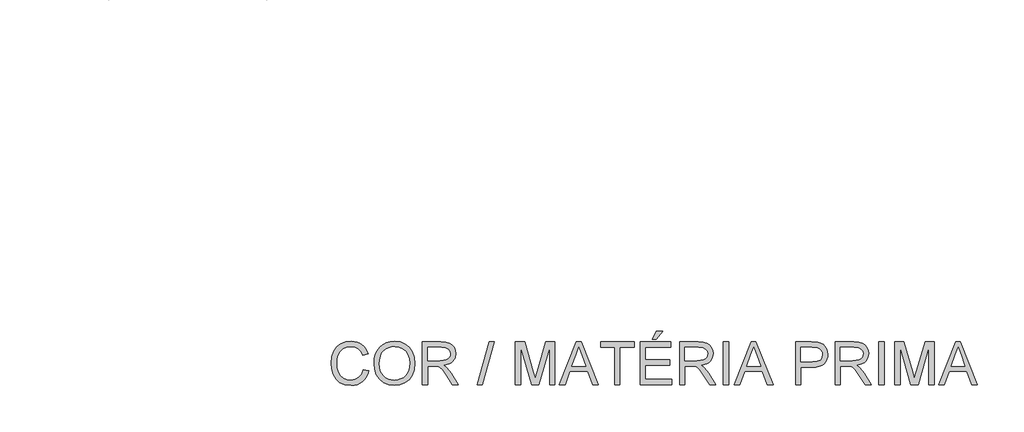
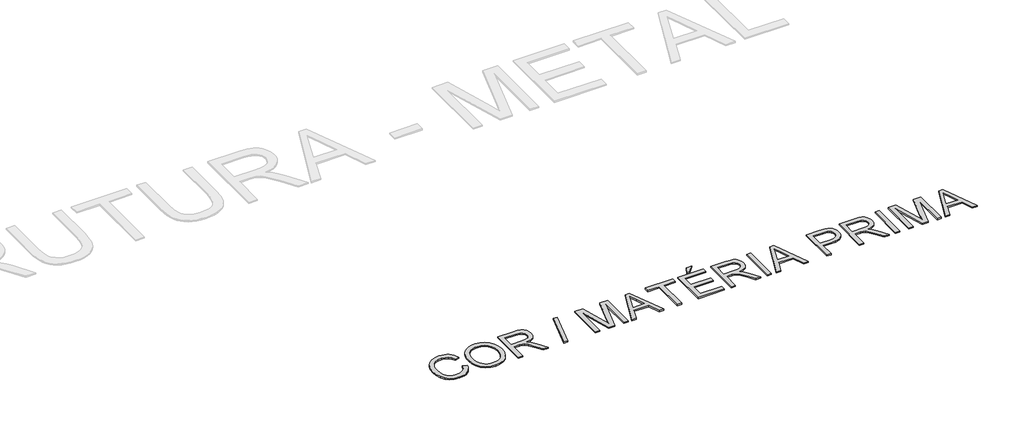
# One storey, part 29 of 35: 1 proxy.
"""IFC4 building model written with IfcOpenShell, lengths in millimetres."""

from ifc_helpers import new_model, si_unit, origin, origin_with_axes, place, context, project, spatial, polyline, outline, extrude, element, save

model = new_model("IFC4")

# Units and contexts
model_context = context("Model", 3, world=origin())
ifc_project = project(units=[si_unit("LENGTHUNIT", "METRE", prefix="MILLI")], contexts=[model_context])

# Site, building, storey
site = spatial("IfcSite", under=ifc_project)
building = spatial("IfcBuilding", under=site)
storey = spatial("IfcBuildingStorey", under=building, Name="Marelli - Linha YOU - Planta Baixa", Elevation=0.0)

# Proxy
placement = place(None, origin())
element("IfcBuildingElementProxy", 1, Name="300mm Arial", ObjectType="300mm Arial", at=placement, inside=storey, context=model_context, shape_type="SweptSolid", body=[
    extrude(outline(polyline([(6304.1029253, -16173.4390831), (6341.7740416, -16183.1511677), (6334.3198327, -16206.5783531), (6324.3916173, -16227.0486868), (6311.9893956, -16244.5621691), (6297.1131674, -16259.1187997), (6280.0986251, -16270.5622291), (6261.2814611, -16278.7361071), (6240.6616752, -16283.640434), (6218.2392676, -16285.2752096), (6174.5440836, -16280.3271968), (6139.8436145, -16265.4831583), (6113.2457462, -16241.2581289), (6093.8583651, -16208.1671434), (6082.0217619, -16169.2636224), (6078.0762275, -16127.6009865), (6082.5367967, -16083.6574822), (6095.9185042, -16045.7104543), (6117.5223744, -16014.9647166), (6146.6494314, -15992.6250824), (6181.1935507, -15979.0226457), (6219.048608, -15974.4885001), (6260.352559, -15980.3562179), (6278.3212952, -15987.6908652), (6294.5012052, -15997.9593714), (6308.6255746, -16010.8904235), (6320.4276888, -16026.2127086), (6337.0651521, -16064.0309777), (6299.3940358, -16073.0072984), (6286.3342249, -16045.5357104), (6268.4919482, -16026.6909552), (6245.6464763, -16015.7924511), (6217.57708, -16012.1596164), (6185.2218586, -16016.1879242), (6158.6423844, -16028.2728478), (6138.473254, -16047.1451941), (6125.3490638, -16071.5357704), (6118.1477738, -16099.1085259), (6115.7473438, -16127.5274101), (6118.5892322, -16162.3290468), (6127.1148974, -16192.421794), (6141.6462362, -16216.6560205), (6162.5051454, -16233.8820949), (6187.511924, -16244.1735937), (6214.4868713, -16247.6040933), (6245.9315848, -16242.931992), (6272.1339799, -16228.9156879), (6291.9168342, -16205.7023341), (6304.1029253, -16173.4390831)])), origin_with_axes(), (0.0, 0.0, 1.0), 10.0),
    extrude(outline(polyline([(6379.4451579, -16133.8549804), (6381.9559525, -16098.5061192), (6389.4883364, -16067.213157), (6402.0423095, -16039.9760937), (6419.6178718, -16016.7949295), (6441.1619611, -15998.2858666), (6465.6215153, -15985.0651074), (6492.9965342, -15977.1326519), (6523.287018, -15974.4885001), (6562.8159384, -15979.454907), (6598.2613686, -15994.3541278), (6627.6919283, -16018.1376988), (6649.1762368, -16049.7571563), (6662.309624, -16087.68579), (6666.6874197, -16130.3968896), (6662.0796978, -16173.6782064), (6648.2565318, -16212.140269), (6625.981277, -16243.8149088), (6596.0172885, -16266.733957), (6560.8753609, -16280.6398965), (6523.0662888, -16285.2752096), (6482.9303632, -16280.1524528), (6447.2825978, -16264.7841825), (6417.9256146, -16240.5591531), (6396.6620353, -16208.8661192), (6383.7493773, -16172.3998164), (6379.4451579, -16133.8549804)]), holes=[polyline([(6417.1162742, -16134.2228624), (6418.9993702, -16159.1974513), (6424.6486581, -16181.3669401), (6434.0641379, -16200.7313286), (6447.2458096, -16217.2906169), (6463.2693698, -16230.5527628), (6481.2105148, -16240.0257242), (6501.0692448, -16245.709501), (6522.8455596, -16247.6040933), (6544.994355, -16245.6911069), (6565.0876097, -16239.9521478), (6583.1253238, -16230.3872159), (6599.1074972, -16216.9963113), (6612.1925999, -16200.0875351), (6621.5391019, -16179.9689885), (6627.1470031, -16156.6406715), (6629.0163034, -16130.102584), (6625.8157301, -16096.7540812), (6616.21401, -16067.9305269), (6600.4594636, -16044.358488), (6578.8004111, -16026.7645316), (6552.6715924, -16015.8108452), (6523.5077472, -16012.1596164), (6502.4878897, -16013.9185522), (6482.9855455, -16019.1953595), (6465.0007144, -16027.9900385), (6448.5333966, -16040.302589), (6434.7884056, -16056.7262208), (6424.9705548, -16077.8541437), (6419.0798444, -16103.6863575), (6417.1162742, -16134.2228624)])]), origin_with_axes(), (0.0, 0.0, 1.0), 10.0),
    extrude(outline(polyline([(6718.4852047, -16280.5663201), (6718.4852047, -15979.1973896), (6848.347549, -15979.1973896), (6883.2503533, -15981.2299376), (6908.643408, -15987.3275817), (6927.2030546, -15998.5847708), (6941.6056347, -16016.0959537), (6950.8486699, -16037.8101885), (6953.9296816, -16061.6765329), (6948.8253189, -16091.3646099), (6933.5122308, -16115.9759154), (6921.9124517, -16126.0052983), (6907.5305649, -16134.0205273), (6870.4204687, -16144.0085235), (6891.8312008, -16160.1217548), (6922.3654064, -16198.8965171), (6972.6180869, -16280.5663201), (6928.8401295, -16280.5663201), (6889.6239088, -16218.0999573), (6861.2969952, -16176.750021), (6841.3945793, -16157.2154871), (6823.4787261, -16150.0417882), (6801.6265356, -16148.717413), (6756.156321, -16148.717413), (6756.156321, -16280.5663201), (6718.4852047, -16280.5663201)]), holes=[polyline([(6756.156321, -16111.0462967), (6840.4748743, -16111.0462967), (6864.6907066, -16109.7127245), (6883.4802795, -16105.7120078), (6897.6253422, -16098.7774322), (6907.907644, -16088.6422832), (6914.170835, -16076.3826157), (6916.2585653, -16063.0744845), (6912.2762427, -16044.6987789), (6900.3292749, -16029.8915286), (6879.7738684, -16020.1242616), (6849.9662297, -16016.8685059), (6756.156321, -16016.8685059), (6756.156321, -16111.0462967)])]), origin_with_axes(), (0.0, 0.0, 1.0), 10.0),
    extrude(outline(polyline([(7104.6141468, -16280.5663201), (7189.3741585, -15979.1973896), (7223.3664548, -15979.1973896), (7138.6064432, -16280.5663201), (7104.6141468, -16280.5663201)])), origin_with_axes(), (0.0, 0.0, 1.0), 10.0),
    extrude(outline(polyline([(7373.0208505, -16280.5663201), (7373.0208505, -15979.1973896), (7437.841658, -15979.1973896), (7499.4986804, -16191.6124536), (7511.9330919, -16235.9790223), (7525.3975729, -16187.9336337), (7586.0245257, -15979.1973896), (7650.8453332, -15979.1973896), (7650.8453332, -16280.5663201), (7613.1742169, -16280.5663201), (7613.1742169, -16016.8685059), (7537.4641023, -16280.5663201), (7486.4020814, -16280.5663201), (7410.6919668, -16016.8685059), (7410.6919668, -16280.5663201), (7373.0208505, -16280.5663201)])), origin_with_axes(), (0.0, 0.0, 1.0), 10.0),
    extrude(outline(polyline([(7681.6738444, -16280.5663201), (7801.9712569, -15979.1973896), (7834.0505668, -15979.1973896), (7954.3479793, -16280.5663201), (7914.5431474, -16280.5663201), (7880.0358162, -16186.3885293), (7755.9124311, -16186.3885293), (7721.4786763, -16280.5663201), (7681.6738444, -16280.5663201)]), holes=[polyline([(7769.7447941, -16148.717413), (7866.2770296, -16148.717413), (7839.1273384, -16074.6259792), (7818.0109119, -16016.8685059), (7799.2489301, -16068.1512561), (7769.7447941, -16148.717413)])]), origin_with_axes(), (0.0, 0.0, 1.0), 10.0),
    extrude(outline(polyline([(8069.9365021, -16280.5663201), (8069.9365021, -16016.8685059), (7971.0498218, -16016.8685059), (7971.0498218, -15979.1973896), (8206.4942988, -15979.1973896), (8206.4942988, -16016.8685059), (8107.6076185, -16016.8685059), (8107.6076185, -16280.5663201), (8069.9365021, -16280.5663201)])), origin_with_axes(), (0.0, 0.0, 1.0), 10.0),
    extrude(outline(polyline([(8248.8743046, -16280.5663201), (8248.8743046, -15979.1973896), (8465.4832234, -15979.1973896), (8465.4832234, -16016.8685059), (8286.5454209, -16016.8685059), (8286.5454209, -16106.3374072), (8456.0654443, -16106.3374072), (8456.0654443, -16144.0085235), (8286.5454209, -16144.0085235), (8286.5454209, -16242.8952038), (8470.1921129, -16242.8952038), (8470.1921129, -16280.5663201), (8248.8743046, -16280.5663201)])), origin_with_axes(), (0.0, 0.0, 1.0), 10.0),
    extrude(outline(polyline([(8333.6343163, -15960.3618315), (8361.8876535, -15903.855157), (8408.9765489, -15903.855157), (8361.8876535, -15960.3618315), (8333.6343163, -15960.3618315)])), origin_with_axes(), (0.0, 0.0, 1.0), 10.0),
    extrude(outline(polyline([(8526.6987874, -16280.5663201), (8526.6987874, -15979.1973896), (8656.5611317, -15979.1973896), (8691.463936, -15981.2299376), (8716.8569907, -15987.3275817), (8735.4166373, -15998.5847708), (8749.8192174, -16016.0959537), (8759.0622526, -16037.8101885), (8762.1432643, -16061.6765329), (8757.0389016, -16091.3646099), (8741.7258135, -16115.9759154), (8730.1260344, -16126.0052983), (8715.7441476, -16134.0205273), (8678.6340514, -16144.0085235), (8700.0447835, -16160.1217548), (8730.5789891, -16198.8965171), (8780.8316696, -16280.5663201), (8737.0537122, -16280.5663201), (8697.8374915, -16218.0999573), (8669.5105779, -16176.750021), (8649.6081619, -16157.2154871), (8631.6923088, -16150.0417882), (8609.8401183, -16148.717413), (8564.3699037, -16148.717413), (8564.3699037, -16280.5663201), (8526.6987874, -16280.5663201)]), holes=[polyline([(8564.3699037, -16111.0462967), (8648.688457, -16111.0462967), (8672.9042893, -16109.7127245), (8691.6938622, -16105.7120078), (8705.8389249, -16098.7774322), (8716.1212267, -16088.6422832), (8722.3844176, -16076.3826157), (8724.472148, -16063.0744845), (8720.4898254, -16044.6987789), (8708.5428576, -16029.8915286), (8687.9874511, -16020.1242616), (8658.1798124, -16016.8685059), (8564.3699037, -16016.8685059), (8564.3699037, -16111.0462967)])]), origin_with_axes(), (0.0, 0.0, 1.0), 10.0),
    extrude(outline(polyline([(8832.7766073, -16280.5663201), (8832.7766073, -15979.1973896), (8870.4477237, -15979.1973896), (8870.4477237, -16280.5663201), (8832.7766073, -16280.5663201)])), origin_with_axes(), (0.0, 0.0, 1.0), 10.0),
    extrude(outline(polyline([(8910.6940139, -16280.5663201), (9030.9914263, -15979.1973896), (9063.0707363, -15979.1973896), (9183.3681488, -16280.5663201), (9143.5633169, -16280.5663201), (9109.0559857, -16186.3885293), (8984.9326006, -16186.3885293), (8950.4988458, -16280.5663201), (8910.6940139, -16280.5663201)]), holes=[polyline([(8998.7649636, -16148.717413), (9095.2971991, -16148.717413), (9068.1475079, -16074.6259792), (9047.0310813, -16016.8685059), (9028.2690996, -16068.1512561), (8998.7649636, -16148.717413)])]), origin_with_axes(), (0.0, 0.0, 1.0), 10.0),
    extrude(outline(polyline([(9341.3366775, -16280.5663201), (9341.3366775, -15979.1973896), (9453.0256512, -15979.1973896), (9498.0544074, -15982.0668692), (9518.1315673, -15987.4287493), (9534.6586659, -15996.1567496), (9547.9667971, -16008.6463433), (9558.3870546, -16025.2930036), (9565.1192951, -16044.9287051), (9567.3633753, -16066.3854225), (9565.8481613, -16084.8852883), (9561.3025194, -16101.9044291), (9553.7264496, -16117.4428449), (9543.1199518, -16131.5005356), (9528.5587226, -16143.1531978), (9509.1184584, -16151.476528), (9484.7991593, -16156.470526), (9455.6008252, -16158.1351921), (9379.0077938, -16158.1351921), (9379.0077938, -16280.5663201), (9341.3366775, -16280.5663201)]), holes=[polyline([(9379.0077938, -16120.4640758), (9457.8081172, -16120.4640758), (9491.2118023, -16117.005985), (9513.284722, -16106.6317127), (9525.5903748, -16089.9850525), (9529.692259, -16067.7097977), (9527.2734349, -16050.7872259), (9520.0169625, -16036.5134045), (9508.8241528, -16025.7712502), (9494.5963167, -16019.4436799), (9456.9252004, -16016.8685059), (9379.0077938, -16016.8685059), (9379.0077938, -16120.4640758)])]), origin_with_axes(), (0.0, 0.0, 1.0), 10.0),
    extrude(outline(polyline([(9619.1611602, -16280.5663201), (9619.1611602, -15979.1973896), (9749.0235045, -15979.1973896), (9783.9263088, -15981.2299376), (9809.3193635, -15987.3275817), (9827.8790102, -15998.5847708), (9842.2815903, -16016.0959537), (9851.5246254, -16037.8101885), (9854.6056372, -16061.6765329), (9849.5012745, -16091.3646099), (9834.1881864, -16115.9759154), (9822.5884073, -16126.0052983), (9808.2065205, -16134.0205273), (9771.0964242, -16144.0085235), (9792.5071564, -16160.1217548), (9823.041362, -16198.8965171), (9873.2940425, -16280.5663201), (9829.5160851, -16280.5663201), (9790.2998644, -16218.0999573), (9761.9729508, -16176.750021), (9742.0705348, -16157.2154871), (9724.1546817, -16150.0417882), (9702.3024911, -16148.717413), (9656.8322765, -16148.717413), (9656.8322765, -16280.5663201), (9619.1611602, -16280.5663201)]), holes=[polyline([(9656.8322765, -16111.0462967), (9741.1508298, -16111.0462967), (9765.3666622, -16109.7127245), (9784.1562351, -16105.7120078), (9798.3012978, -16098.7774322), (9808.5835996, -16088.6422832), (9814.8467905, -16076.3826157), (9816.9345208, -16063.0744845), (9812.9521982, -16044.6987789), (9801.0052305, -16029.8915286), (9780.449824, -16020.1242616), (9750.6421853, -16016.8685059), (9656.8322765, -16016.8685059), (9656.8322765, -16111.0462967)])]), origin_with_axes(), (0.0, 0.0, 1.0), 10.0),
    extrude(outline(polyline([(9925.2389802, -16280.5663201), (9925.2389802, -15979.1973896), (9962.9100965, -15979.1973896), (9962.9100965, -16280.5663201), (9925.2389802, -16280.5663201)])), origin_with_axes(), (0.0, 0.0, 1.0), 10.0),
    extrude(outline(polyline([(10038.2523291, -16280.5663201), (10038.2523291, -15979.1973896), (10103.0731367, -15979.1973896), (10164.7301591, -16191.6124536), (10177.1645705, -16235.9790223), (10190.6290515, -16187.9336337), (10251.2560044, -15979.1973896), (10316.0768119, -15979.1973896), (10316.0768119, -16280.5663201), (10278.4056956, -16280.5663201), (10278.4056956, -16016.8685059), (10202.695581, -16280.5663201), (10151.6335601, -16280.5663201), (10075.9234454, -16016.8685059), (10075.9234454, -16280.5663201), (10038.2523291, -16280.5663201)])), origin_with_axes(), (0.0, 0.0, 1.0), 10.0),
    extrude(outline(polyline([(10346.9053231, -16280.5663201), (10467.2027355, -15979.1973896), (10499.2820455, -15979.1973896), (10619.5794579, -16280.5663201), (10579.774626, -16280.5663201), (10545.2672949, -16186.3885293), (10421.1439097, -16186.3885293), (10386.710155, -16280.5663201), (10346.9053231, -16280.5663201)]), holes=[polyline([(10434.9762727, -16148.717413), (10531.5085083, -16148.717413), (10504.358817, -16074.6259792), (10483.2423905, -16016.8685059), (10464.4804088, -16068.1512561), (10434.9762727, -16148.717413)])]), origin_with_axes(), (0.0, 0.0, 1.0), 10.0),
])

save(model, "model.ifc")
